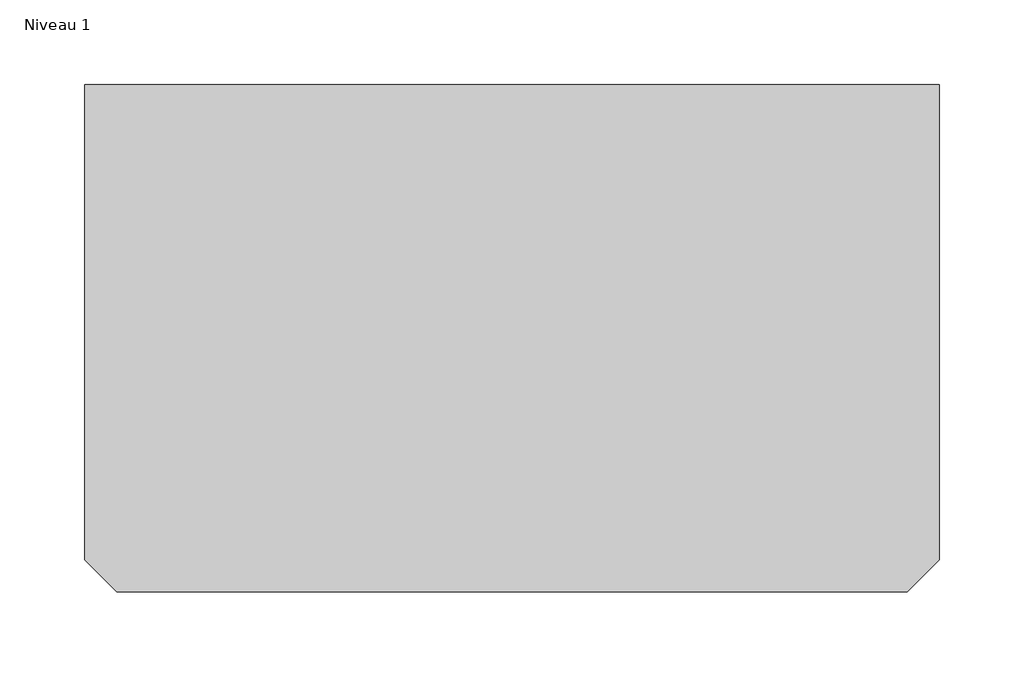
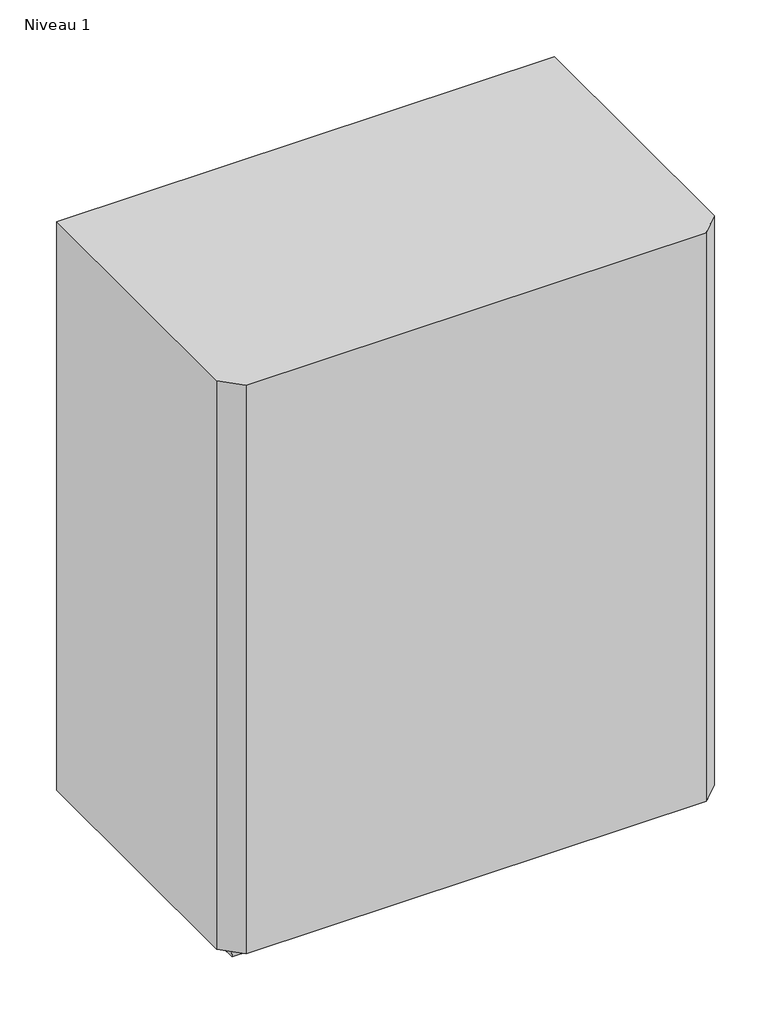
# One storey: 1 proxy.
"""IFC4 building model written with IfcOpenShell, lengths in millimetres."""

from ifc_helpers import new_model, si_unit, origin, place, context, project, spatial, transform, mapped, element, save
from components import electrical_equipment_40986e62

model = new_model("IFC4")

# Units and contexts
model_context = context("Model", 3, world=origin())
ifc_project = project(units=[si_unit("LENGTHUNIT", "METRE", prefix="MILLI")], contexts=[model_context])

# Site, building, storey
site = spatial("IfcSite", under=ifc_project)
building = spatial("IfcBuilding", under=site)
storey = spatial("IfcBuildingStorey", under=building, Name="Niveau 1", Elevation=0.0)

# Proxy
placement = place(None, origin())
electrical_equipment_shape = electrical_equipment_40986e62(model_context)
element("IfcBuildingElementProxy", 1, Name="COFFRET BATTERIE ABM 1P : COFFRET BATTERIE ABM 1P", ObjectType="COFFRET BATTERIE ABM 1P : COFFRET BATTERIE ABM 1P", at=placement, inside=storey, context=model_context, shape_type="MappedRepresentation", body=[
    mapped(electrical_equipment_shape, transform((-7583.5623639, 8570.4251649, 0.0), x_axis=(1.0, 0.0, 0.0), y_axis=(0.0, 1.0, 0.0), z_axis=(0.0, 0.0, 1.0))),
])

save(model, "model.ifc")
